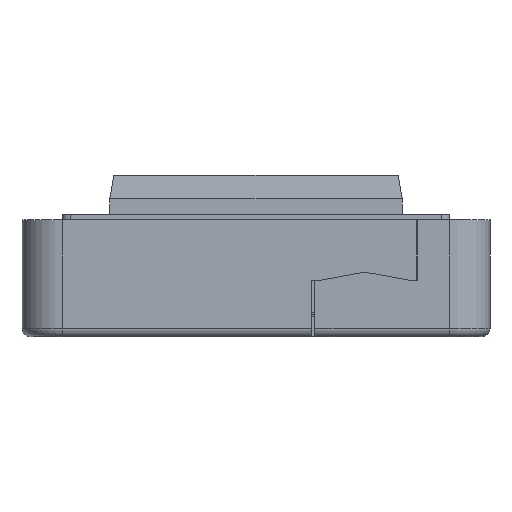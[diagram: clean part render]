
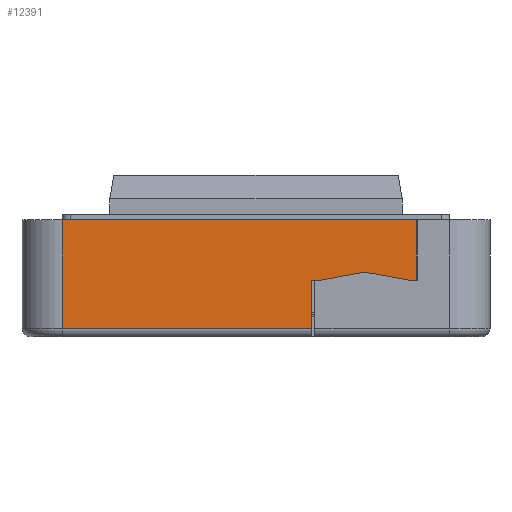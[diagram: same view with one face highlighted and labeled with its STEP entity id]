
A CAD part, left-side view. The second image highlights one B-rep face of the part: STEP entity #12391.
In plain terms, the highlighted planar face has unit normal (-1, 0, 0) as drawn and (1, 0, 0) by its records, which use the part's own axes.
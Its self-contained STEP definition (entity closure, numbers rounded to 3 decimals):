
#555=PLANE('',#13380);
#1494=FACE_OUTER_BOUND('',#2214,.T.);
#2214=EDGE_LOOP('',(#10296,#10297,#10298,#10299,#10300,#10301,#10302,#10303,
#10304));
#3195=LINE('',#19809,#4436);
#3201=LINE('',#19821,#4442);
#3204=LINE('',#19827,#4445);
#3205=LINE('',#19829,#4446);
#3206=LINE('',#19831,#4447);
#3207=LINE('',#19833,#4448);
#3208=LINE('',#19835,#4449);
#3209=LINE('',#19837,#4450);
#3210=LINE('',#19838,#4451);
#4436=VECTOR('',#15632,10.);
#4442=VECTOR('',#15640,10.);
#4445=VECTOR('',#15645,10.);
#4446=VECTOR('',#15646,10.);
#4447=VECTOR('',#15647,10.);
#4448=VECTOR('',#15648,10.);
#4449=VECTOR('',#15649,10.);
#4450=VECTOR('',#15650,10.);
#4451=VECTOR('',#15651,10.);
#6009=VERTEX_POINT('',#19807);
#6010=VERTEX_POINT('',#19808);
#6015=VERTEX_POINT('',#19820);
#6017=VERTEX_POINT('',#19826);
#6018=VERTEX_POINT('',#19828);
#6019=VERTEX_POINT('',#19830);
#6020=VERTEX_POINT('',#19832);
#6021=VERTEX_POINT('',#19834);
#6022=VERTEX_POINT('',#19836);
#7530=EDGE_CURVE('',#6009,#6010,#3195,.T.);
#7536=EDGE_CURVE('',#6015,#6009,#3201,.T.);
#7539=EDGE_CURVE('',#6017,#6010,#3204,.T.);
#7540=EDGE_CURVE('',#6018,#6017,#3205,.T.);
#7541=EDGE_CURVE('',#6019,#6018,#3206,.T.);
#7542=EDGE_CURVE('',#6019,#6020,#3207,.T.);
#7543=EDGE_CURVE('',#6020,#6021,#3208,.T.);
#7544=EDGE_CURVE('',#6021,#6022,#3209,.T.);
#7545=EDGE_CURVE('',#6022,#6015,#3210,.T.);
#10296=ORIENTED_EDGE('',*,*,#7530,.T.);
#10297=ORIENTED_EDGE('',*,*,#7539,.F.);
#10298=ORIENTED_EDGE('',*,*,#7540,.F.);
#10299=ORIENTED_EDGE('',*,*,#7541,.F.);
#10300=ORIENTED_EDGE('',*,*,#7542,.T.);
#10301=ORIENTED_EDGE('',*,*,#7543,.T.);
#10302=ORIENTED_EDGE('',*,*,#7544,.T.);
#10303=ORIENTED_EDGE('',*,*,#7545,.T.);
#10304=ORIENTED_EDGE('',*,*,#7536,.T.);
#12391=ADVANCED_FACE('',(#1494),#555,.T.);
#13380=AXIS2_PLACEMENT_3D('',#19825,#15643,#15644);
#15632=DIRECTION('',(0.,0.,1.));
#15640=DIRECTION('',(0.,1.,0.));
#15643=DIRECTION('center_axis',(1.,0.,0.));
#15644=DIRECTION('ref_axis',(0.,0.,-1.));
#15645=DIRECTION('',(0.,1.,0.));
#15646=DIRECTION('',(0.,0.,1.));
#15647=DIRECTION('',(0.,-1.,0.));
#15648=DIRECTION('',(0.,0.,1.));
#15649=DIRECTION('',(0.,1.,0.));
#15650=DIRECTION('',(0.,0.984,0.179));
#15651=DIRECTION('',(0.,0.984,-0.179));
#19807=CARTESIAN_POINT('',(74.,19.9,-8.));
#19808=CARTESIAN_POINT('',(74.,19.9,-0.5));
#19809=CARTESIAN_POINT('',(74.,19.9,-2.554));
#19820=CARTESIAN_POINT('',(74.,19.,-8.));
#19821=CARTESIAN_POINT('',(74.,-3.75,-8.));
#19825=CARTESIAN_POINT('Origin',(74.,-27.5,0.));
#19826=CARTESIAN_POINT('',(74.,-24.,-0.5));
#19827=CARTESIAN_POINT('',(74.,-29.,-0.5));
#19828=CARTESIAN_POINT('',(74.,-24.,-14.));
#19829=CARTESIAN_POINT('',(74.,-24.,-0.25));
#19830=CARTESIAN_POINT('',(74.,6.9,-14.));
#19831=CARTESIAN_POINT('',(74.,-13.75,-14.));
#19832=CARTESIAN_POINT('',(74.,6.9,-8.));
#19833=CARTESIAN_POINT('',(74.,6.9,-5.943));
#19834=CARTESIAN_POINT('',(74.,8.,-8.));
#19835=CARTESIAN_POINT('',(74.,-3.75,-8.));
#19836=CARTESIAN_POINT('',(74.,13.5,-7.));
#19837=CARTESIAN_POINT('',(74.,-5.728,-10.496));
#19838=CARTESIAN_POINT('',(74.,-4.21,-3.78));
